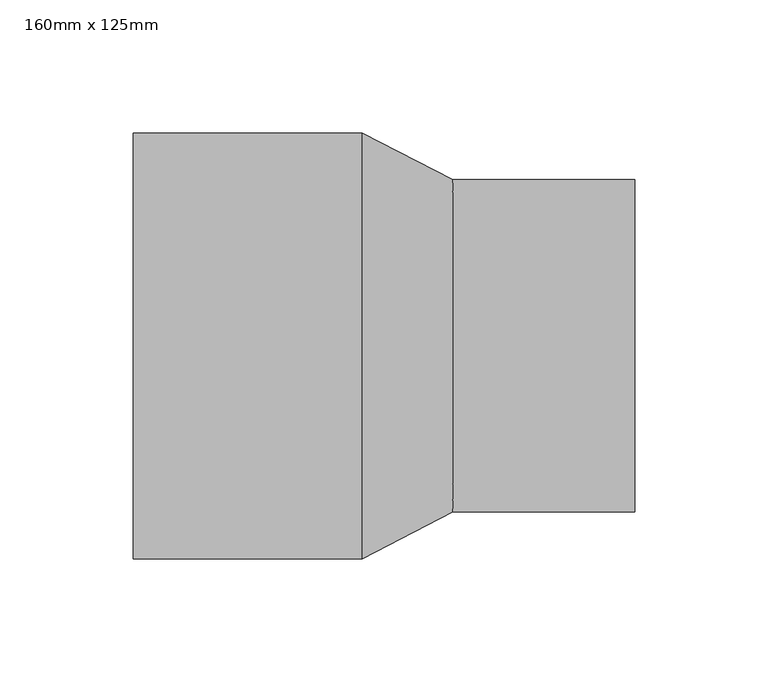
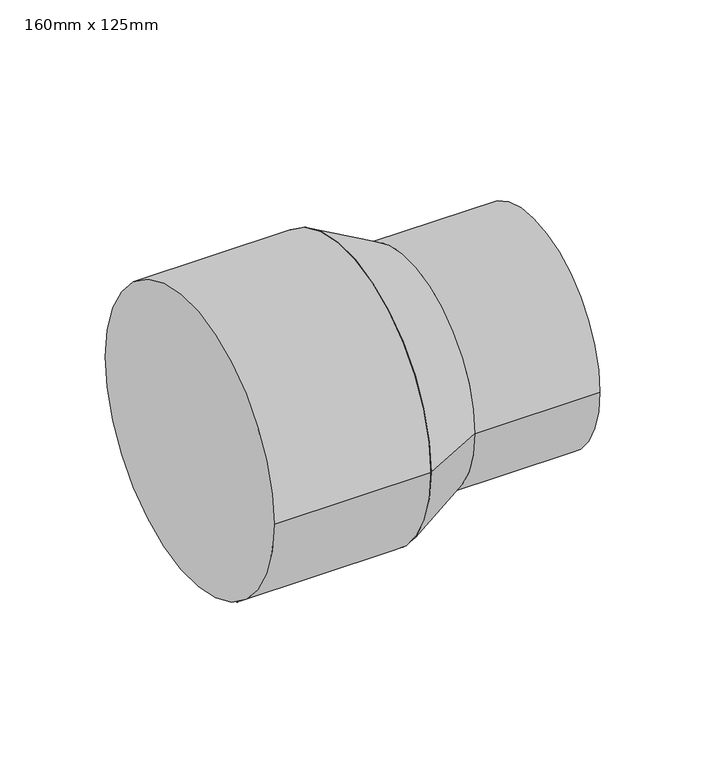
"""IFC4 building model written with IfcOpenShell, lengths in millimetres: pipe fitting geometry, PipeFitting_HTA_CPVC_ReducingBushesLongPattern : 160mm x 125mm."""

from ifc_helpers import new_model, si_unit, point, frame, origin, origin_2d, place, context, project, spatial, polyline, circle_curve, trimmed, segment, composite_curve, outline, extrude, source, transform, mapped, element, save
from ifc_brep_helpers import plane_surface, revolved_surface, advanced_brep


def pipe_fitting_160mm_x_125mm_abec489a(model_context):
    return source(origin(), model_context, "Body", "SolidModel", [
        advanced_brep(
        [(120.0, -62.5, 0.0), (120.0, 62.5, 0.0), (86.0, -80.0, 0.0), (86.0, 80.0, 0.0)],
        [
            (0, 1, circle_curve(frame((120.0, 0.0, 0.0), z_axis=(1.0, 0.0, 0.0), x_axis=(0.0, -1.0, 0.0)), 62.5)),
            (1, 0, circle_curve(frame((120.0, 0.0, 0.0), z_axis=(1.0, 0.0, 0.0), x_axis=(0.0, 1.0, 0.0)), 62.5)),
            (2, 3, circle_curve(frame((86.0, 0.0, 0.0), z_axis=(-1.0, 0.0, 0.0), x_axis=(0.0, 1.0, 0.0)), 80.0)),
            (3, 2, circle_curve(frame((86.0, 0.0, 0.0), z_axis=(-1.0, 0.0, 0.0), x_axis=(0.0, -1.0, 0.0)), 80.0)),
            (3, 1),
            (0, 2),
        ],
        [
            plane_surface(frame((120.0, 0.0, 0.0), z_axis=(1.0, 0.0, 0.0), x_axis=(0.0, 0.0, -1.0))),
            plane_surface(frame((86.0, 0.0, 0.0), z_axis=(-1.0, 0.0, 0.0), x_axis=(0.0, 0.0, -1.0))),
            revolved_surface(polyline([(120.0, -62.49999999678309, 0.0), (86.0, -80.0, 0.0)]), (241.4285714, 0.0, 0.0), (-1.0, 0.0, 0.0)),
            revolved_surface(polyline([(120.0, 62.49999999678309, 0.0), (86.0, 80.0, 0.0)]), (241.4285714, 0.0, 0.0), (-1.0, 0.0, 0.0)),
        ],
        [
            (0, [[1, 2]]),
            (1, [[3, 4]]),
            (2, [[-4, 5, -1, 6]]),
            (3, [[-3, -6, -2, -5]]),
        ],
    ),
        extrude(outline(composite_curve([segment(trimmed(circle_curve(origin_2d(), 62.5), [point((-62.5, 0.0))], [point((62.5, 0.0))], False, "CARTESIAN"), True, "CONTINUOUS"), segment(trimmed(circle_curve(origin_2d(), 62.5), [point((62.5, 0.0))], [point((-62.5, 0.0))], False, "CARTESIAN"), True, "CONTINUOUS")], self_intersect=False)), frame((120.0, 0.0, 0.0), z_axis=(1.0, 0.0, 0.0), x_axis=(0.0, 1.0, 0.0)), (0.0, 0.0, 1.0), 68.5),
        extrude(outline(composite_curve([segment(trimmed(circle_curve(origin_2d(), 80.0), [point((-80.0, 0.0))], [point((80.0, 0.0))], False, "CARTESIAN"), True, "CONTINUOUS"), segment(trimmed(circle_curve(origin_2d(), 80.0), [point((80.0, 0.0))], [point((-80.0, 0.0))], False, "CARTESIAN"), True, "CONTINUOUS")], self_intersect=False)), frame((0.0, 0.0, 0.0), z_axis=(1.0, 0.0, 0.0), x_axis=(0.0, 1.0, 0.0)), (0.0, 0.0, 1.0), 86.0),
    ])


if __name__ == "__main__":
    model = new_model("IFC4")
    model_context = context("Model", 3, world=origin())
    ifc_project = project(units=[si_unit("LENGTHUNIT", "METRE", prefix="MILLI")], contexts=[model_context])
    site = spatial("IfcSite", under=ifc_project)
    building = spatial("IfcBuilding", under=site)
    placement = place(None, origin())
    pipe_fitting_160mm_x_125mm_shape = pipe_fitting_160mm_x_125mm_abec489a(model_context)
    element("IfcPipeFitting", 1, ObjectType="PipeFitting_HTA_CPVC_ReducingBushesLongPattern : 160mm x 125mm", at=placement, inside=building, context=model_context, shape_type="MappedRepresentation", body=[
        mapped(pipe_fitting_160mm_x_125mm_shape, transform((0.0, 0.0, 0.0), x_axis=(1.0, 0.0, 0.0), y_axis=(0.0, 1.0, 0.0), z_axis=(0.0, 0.0, 1.0))),
    ])
    save(model, "model.ifc")
